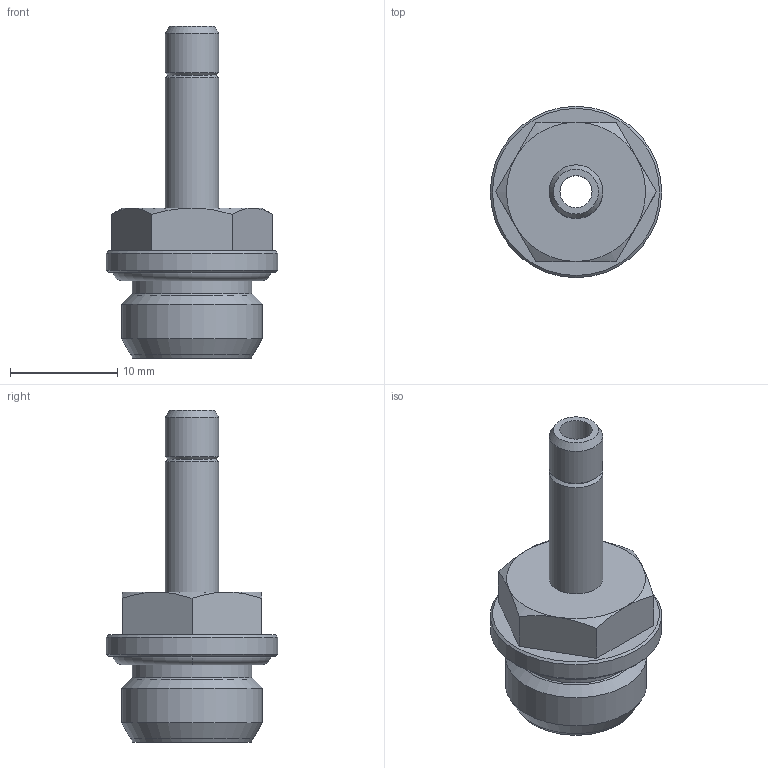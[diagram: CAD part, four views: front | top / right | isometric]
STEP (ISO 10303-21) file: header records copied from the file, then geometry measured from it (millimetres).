
FILE_DESCRIPTION(('Bauteilbeschreibung','HiCAD-Model','HiCAD-STEP-TRANSLATION','Bauteilbeschreibung'),'2;1');
FILE_NAME('B:/ABGLEICH/ZEICHNUNGEN/STEP FÜR INTERNET/STEP/IPSO 06/200606_IPSO_06_5_1-4.STP','2012-02-29T16:29:32+00:00',('Konstrukteur'),('Konstrukteur Firma GmbH'),' HiCAD neXt 2008, Step 3.1.1401.2J ','HiCAD neXt 2008','confidential');
FILE_SCHEMA(('AUTOMOTIVE_DESIGN { 1 2 10303 214 0 1 1 1 }'));
Length unit declared in the file: millimetre
Products named in the file (5): A00606_IPSO_06_5_1_4; A00606; A006060; G 1_4; OR 11_11X1_78
Assembly tree (4 placements, depth 3):
  A00606_IPSO_06_5_1_4
    A00606
    A006060
      G 1_4
    OR 11_11X1_78
Bounding box: 16 x 16 x 31 mm (x, y, z)
Volume: 1612.7 mm3; surface area: 2373 mm2
Topology: 3 solids, 3 shells, 45 faces, 98 edges, 59 vertices
Faces by surface type: cone 18, plane 12, cylinder 9, torus 6
Full cylindrical faces by diameter (mm): 3 x1, 5 x2, 7.5 x1, 11.2 x1, 11.445 x2, 13.157 x1, 16 x1
Entity records: 1444 total; most frequent: DIRECTION 202, CARTESIAN_POINT 193, ORIENTED_EDGE 132, AXIS2_PLACEMENT_3D 95, EDGE_LOOP 74, EDGE_CURVE 66, COLOUR_RGB 61, PRESENTATION_STYLE_ASSIGNMENT 61
